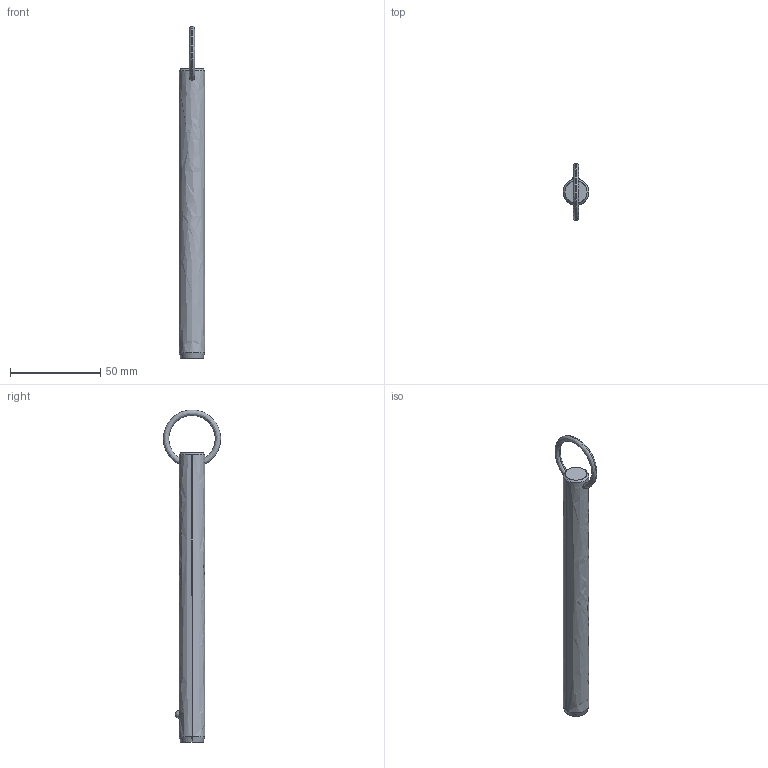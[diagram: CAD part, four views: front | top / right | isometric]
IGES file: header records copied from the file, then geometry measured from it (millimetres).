
Start section: SolidWorks IGES file using analytic representation for surfaces
Global section: file name: C:\Users\liam_\OneDrive\Documents\WORK\Work for WixRoyd\Job Files\J-00019 - Matt Davis CAD Checking\04. CAD Drawings\automotion20190605\P1250.2_v2\P1250.2_v2_20190729_IGES\P1250.056-530.igs; native system: SolidWorks 2017; preprocessor: SolidWorks 2017; author: liam_; date: 190729.232518; units: millimetre
Bounding box: 14.2 x 31.66 x 183.68 mm (x, y, z)
Surface area: 8099.1 mm2 (no closed solid volume)
Topology: 0 solids, 0 shells, 12 faces, 285 edges, 283 vertices
Faces by surface type: revolution 8, bspline 4
